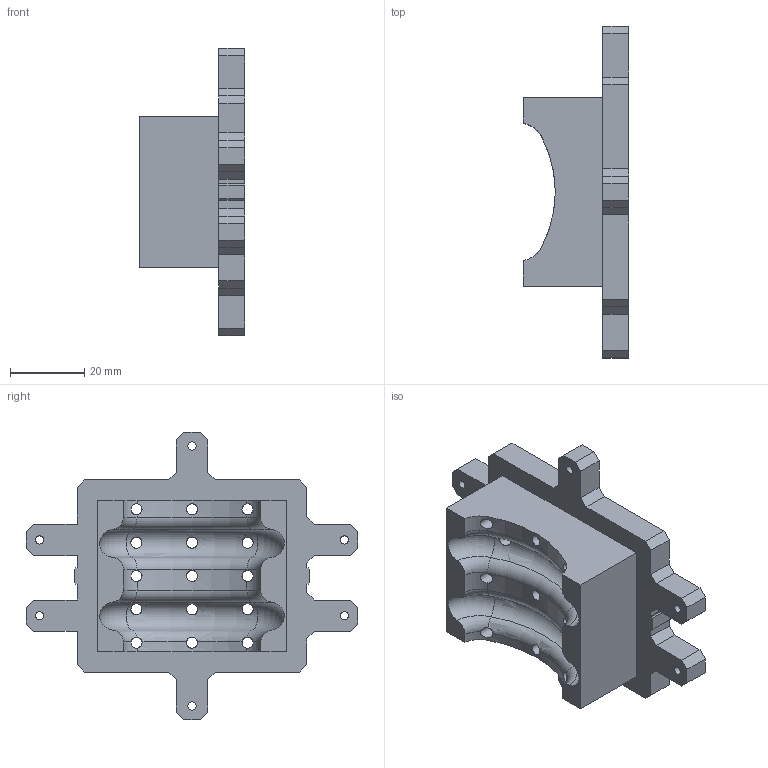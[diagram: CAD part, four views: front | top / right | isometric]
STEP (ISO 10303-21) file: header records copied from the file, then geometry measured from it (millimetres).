
FILE_DESCRIPTION(/* description */ (''),/* implementation_level */ '2;1');
FILE_NAME(/* name */ 'Plug.stp',/* time_stamp */ '2025-08-17T18:01:21+02:00',/* author */ ('MehdiBelhadj'),/* organization */ (''),/* preprocessor_version */ 'ST-DEVELOPER v20.1',/* originating_system */ 'Autodesk Inventor 2026',/* authorisation */ '');
FILE_SCHEMA (('AUTOMOTIVE_DESIGN { 1 0 10303 214 3 1 1 }'));
Length unit declared in the file: millimetre
Products named in the file (1): Plug
Bounding box: 28.41 x 89.6 x 77.5 mm (x, y, z)
Volume: 54581.4 mm3; surface area: 17920.5 mm2
Topology: 1 solids, 1 shells, 187 faces, 528 edges, 348 vertices
Faces by surface type: plane 102, cylinder 36, bspline 31, torus 18
Full cylindrical faces by diameter (mm): 2.2 x6, 3 x15, 4.5 x6
Entity records: 7249 total; most frequent: CARTESIAN_POINT 2313, ORIENTED_EDGE 1056, DIRECTION 815, EDGE_CURVE 528, VERTEX_POINT 348, LINE 337, VECTOR 337, AXIS2_PLACEMENT_3D 239
